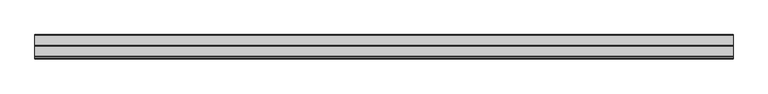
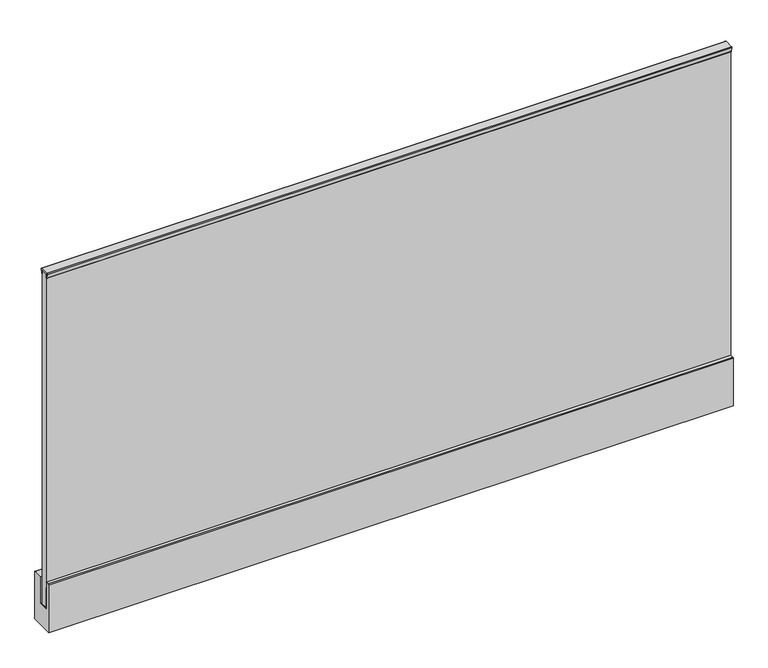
"""IFC4 building model written with IfcOpenShell, lengths in millimetres: railing geometry, Glass Railing (10+10) - Faraone - Ninfa 176 - Wall mounted - Trapez Handrail 30."""

from ifc_helpers import new_model, si_unit, point, frame, frame_2d, origin, place, context, project, spatial, polyline, circle_curve, trimmed, segment, composite_curve, outline, extrude, source, transform, mapped, element, save


def railing_1a8d3a8f(model_context):
    return source(origin(), model_context, "Body", "SweptSolid", [
        extrude(outline(composite_curve([segment(polyline([(-3874.2613698, 1107.5126187), (-3842.8474347, 1107.5126187)]), True, "CONTINUOUS"), segment(trimmed(circle_curve(frame_2d((-3842.8474347, 1105.3563017)), 2.156317), [point((-3842.8474347, 1107.5126187))], [point((-3840.7122687, 1105.0550222))], False, "CARTESIAN"), True, "CONTINUOUS"), segment(polyline([(-3840.7122687, 1105.0550222), (-3842.688108, 1091.0522601)]), True, "CONTINUOUS"), segment(trimmed(circle_curve(frame_2d((-3844.1064512, 1091.2523933)), 1.4323933), [point((-3842.688108, 1091.0522601))], [point((-3844.1064512, 1089.82))], False, "CARTESIAN"), True, "CONTINUOUS"), segment(polyline([(-3844.1064512, 1089.82), (-3845.8044022, 1089.82), (-3845.8044022, 1102.5586855), (-3871.3044022, 1102.5586855), (-3871.3044022, 1089.82), (-3873.0023533, 1089.82)]), True, "CONTINUOUS"), segment(trimmed(circle_curve(frame_2d((-3873.0023533, 1091.2523933)), 1.4323933), [point((-3873.0023533, 1089.82))], [point((-3874.4206964, 1091.0522601))], False, "CARTESIAN"), True, "CONTINUOUS"), segment(polyline([(-3874.4206964, 1091.0522601), (-3876.3965357, 1105.0550222)]), True, "CONTINUOUS"), segment(trimmed(circle_curve(frame_2d((-3874.2613698, 1105.3563017)), 2.156317), [point((-3876.3965357, 1105.0550222))], [point((-3874.2613698, 1107.5126187))], False, "CARTESIAN"), True, "CONTINUOUS")], self_intersect=False)), frame((4362.6376845, 0.0, 0.0), z_axis=(1.0, 0.0, 0.0), x_axis=(0.0, 1.0, 0.0)), (0.0, 0.0, 1.0), 2320.0),
        extrude(outline(polyline([(-3869.3344022, -92.36), (-3869.3344022, 1100.56), (-3859.0844022, 1100.56), (-3859.0844022, -91.56), (-3858.0844022, -91.56), (-3858.0844022, 1100.56), (-3847.8344022, 1100.56), (-3847.8344022, -92.36), (-3869.3344022, -92.36)])), frame((4362.6376845, 0.0, 0.0), z_axis=(1.0, 0.0, 0.0), x_axis=(0.0, 1.0, 0.0)), (0.0, 0.0, 1.0), 2320.0),
        extrude(outline(composite_curve([segment(polyline([(-3881.2069718, -0.0006325), (-3871.3025313, -0.0006325), (-3871.3025313, -95.3393625), (-3839.5262732, -95.3393625), (-3839.5262732, -0.0006325), (-3807.0455373, -0.0006325)]), True, "CONTINUOUS"), segment(trimmed(circle_curve(frame_2d((-3807.0455373, -3.0621312)), 3.0614987), [point((-3807.0455373, -0.0006325))], [point((-3803.9840386, -3.0621312))], False, "CARTESIAN"), True, "CONTINUOUS"), segment(polyline([(-3803.9840386, -3.0621312), (-3803.9840386, -173.21), (-3884.327572, -173.21), (-3884.327572, -3.1212327)]), True, "CONTINUOUS"), segment(trimmed(circle_curve(frame_2d((-3881.2069718, -3.1212327)), 3.1206002), [point((-3884.327572, -3.1212327))], [point((-3881.2069718, -0.0006325))], False, "CARTESIAN"), True, "CONTINUOUS")], self_intersect=False)), frame((4362.6376845, 0.0, 0.0), z_axis=(1.0, 0.0, 0.0), x_axis=(0.0, 1.0, 0.0)), (0.0, 0.0, 1.0), 2320.0),
        extrude(outline(polyline([(-3871.306317, -95.34), (-3871.306317, -20.1108016), (-3869.332369, -20.1108016), (-3869.332369, -92.3609041), (-3847.8224874, -92.3609041), (-3847.8224874, -95.34), (-3871.306317, -95.34)])), frame((4362.6376845, 0.0, 0.0), z_axis=(1.0, 0.0, 0.0), x_axis=(0.0, 1.0, 0.0)), (0.0, 0.0, 1.0), 2320.0),
        extrude(outline(polyline([(4362.6376845, -3871.3044022), (4362.6376845, -3869.3044022), (6682.6376845, -3869.3044022), (6682.6376845, -3871.3044022), (4362.6376845, -3871.3044022)])), frame((0.0, 0.0, 1091.82), z_axis=(0.0, 0.0, 1.0), x_axis=(1.0, 0.0, 0.0)), (0.0, 0.0, 1.0), 10.74),
        extrude(outline(polyline([(4362.6376845, -3847.8044022), (4362.6376845, -3845.8044022), (6682.6376845, -3845.8044022), (6682.6376845, -3847.8044022), (4362.6376845, -3847.8044022)])), frame((0.0, 0.0, 1091.82), z_axis=(0.0, 0.0, 1.0), x_axis=(1.0, 0.0, 0.0)), (0.0, 0.0, 1.0), 10.74),
        extrude(outline(polyline([(4362.6376845, -3869.3844022), (4362.6376845, -3847.8844022), (6682.6376845, -3847.8844022), (6682.6376845, -3869.3844022), (4362.6376845, -3869.3844022)])), frame((0.0, 0.0, 1100.56), z_axis=(0.0, 0.0, 1.0), x_axis=(1.0, 0.0, 0.0)), (0.0, 0.0, 1.0), 2.0),
    ])


if __name__ == "__main__":
    model = new_model("IFC4")
    model_context = context("Model", 3, world=origin())
    ifc_project = project(units=[si_unit("LENGTHUNIT", "METRE", prefix="MILLI")], contexts=[model_context])
    site = spatial("IfcSite", under=ifc_project)
    building = spatial("IfcBuilding", under=site)
    placement = place(None, origin())
    railing_shape = railing_1a8d3a8f(model_context)
    element("IfcRailing", 1, ObjectType="Glass Railing (10+10) - Faraone - Ninfa 176 - Wall mounted - Trapez Handrail 30", at=placement, inside=building, context=model_context, shape_type="MappedRepresentation", body=[
        mapped(railing_shape, transform((0.0, 0.0, 0.0), x_axis=(1.0, 0.0, 0.0), y_axis=(0.0, 1.0, 0.0), z_axis=(0.0, 0.0, 1.0))),
    ])
    save(model, "model.ifc")
